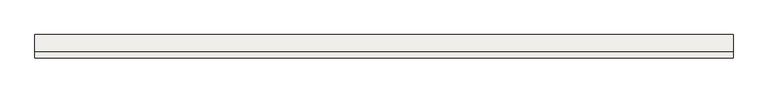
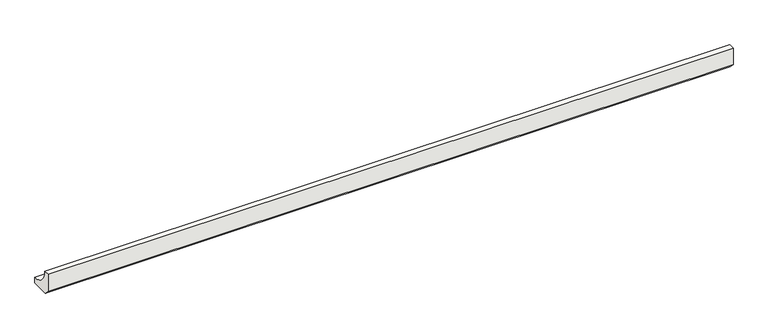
"""IFC4 building model written with IfcOpenShell, lengths in millimetres: slab geometry, ROSA GRES_188 : Pieza 188_Serena_Ocra_Anti-Slip."""

import ifcopenshell
import ifcopenshell.guid

model = None  # the IFC model being written
_history = None  # IfcOwnerHistory: only IFC2X3 demands one
_inside = {}  # id of a spatial element -> (the spatial element, [elements in it])
_under = {}  # id of a project, library or spatial element -> (it, [spatial elements below it])
_declared = {}  # id of a project -> (the project, [libraries it declares])
_typed = {}  # id of a type object -> (the type object, [elements of that type])
_made_of = {}  # id of a material, layer set ... -> (it, [elements and type objects made of it])


def new_model(schema):
    """Start an empty IFC model of exactly this schema.

    Asked for "IFC4X3", IfcOpenShell would pick the latest addendum, in which some entities
    have other attributes; the version numbers below select the first issue.
    IFC2X3 requires an IfcOwnerHistory on every rooted entity: one is made here for all.
    """
    global model, _history
    if schema == "IFC4X3":
        model = ifcopenshell.file(schema_version=(4, 3, 0, 0))
    else:
        model = ifcopenshell.file(schema=schema)
    _inside.clear()
    _under.clear()
    _declared.clear()
    _typed.clear()
    _made_of.clear()
    _history = None
    if model.schema == "IFC2X3":
        org = make("IfcOrganization", Name="unknown")
        user = make(
            "IfcPersonAndOrganization",
            ThePerson=make("IfcPerson", FamilyName="unknown"),
            TheOrganization=org,
        )
        app = make(
            "IfcApplication",
            ApplicationDeveloper=org,
            Version="unknown",
            ApplicationFullName="unknown",
            ApplicationIdentifier="unknown",
        )
        _history = make(
            "IfcOwnerHistory",
            OwningUser=user,
            OwningApplication=app,
            ChangeAction="ADDED",
            CreationDate=0,
        )
    return model


def make(cls, **values):
    """One entity of the class cls with the attributes given. An attribute that is None is left unset."""
    return model.create_entity(
        cls, **{name: value for name, value in values.items() if value is not None}
    )


def rooted(cls, **values):
    """An entity with a GlobalId (a new one), such as an element, a storey or a relation."""
    return make(cls, GlobalId=ifcopenshell.guid.new(), OwnerHistory=_history, **values)


def si_unit(unit_type, name, prefix=None):
    """IfcSIUnit, for example si_unit("LENGTHUNIT", "METRE", prefix="MILLI")."""
    return make("IfcSIUnit", UnitType=unit_type, Prefix=prefix, Name=name)


def assignment(units):
    """IfcUnitAssignment: the units of a project."""
    return None if units is None else make("IfcUnitAssignment", Units=units)


def point(xyz):
    """IfcCartesianPoint."""
    return None if xyz is None else make("IfcCartesianPoint", Coordinates=xyz)


def direction(xyz):
    """IfcDirection."""
    return None if xyz is None else make("IfcDirection", DirectionRatios=xyz)


def frame(location, z_axis=None, x_axis=None):
    """IfcAxis2Placement3D, a coordinate frame: its origin and axes. An axis left out is left unset."""
    return make(
        "IfcAxis2Placement3D",
        Location=point(location),
        Axis=direction(z_axis),
        RefDirection=direction(x_axis),
    )


def frame_2d(location, x_axis=None):
    """IfcAxis2Placement2D, a coordinate frame in the plane: its origin and x axis."""
    return make(
        "IfcAxis2Placement2D", Location=point(location), RefDirection=direction(x_axis)
    )


def origin():
    """The frame at (0, 0, 0) with its axes left unset."""
    return frame((0.0, 0.0, 0.0))


def place(relative_to, where):
    """IfcLocalPlacement: puts the frame where relative to a parent placement (None: the world)."""
    return make(
        "IfcLocalPlacement", PlacementRelTo=relative_to, RelativePlacement=where
    )


def context(
    kind, dimensions, precision=None, world=None, true_north=None, identifier=None
):
    """IfcGeometricRepresentationContext, for example the 3D "Model" context."""
    return make(
        "IfcGeometricRepresentationContext",
        ContextIdentifier=identifier,
        ContextType=kind,
        CoordinateSpaceDimension=dimensions,
        Precision=precision,
        WorldCoordinateSystem=world,
        TrueNorth=true_north,
    )


def project(units=None, contexts=None):
    """IfcProject with its units and contexts."""
    return rooted(
        "IfcProject",
        Name="project",
        RepresentationContexts=contexts,
        UnitsInContext=assignment(units),
    )


def spatial(cls, under=None, at=None, **own):
    """A site, building, storey or space (cls), placed at a placement, below another one or the project."""
    s = rooted(cls, ObjectPlacement=at, **own)
    if under is not None:
        _under.setdefault(under.id(), (under, []))[1].append(s)
    return s


def polyline(points):
    """IfcPolyline through the points."""
    return make("IfcPolyline", Points=[point(p) for p in points])


def circle_curve(where, radius):
    """IfcCircle in the frame where."""
    return make("IfcCircle", Position=where, Radius=radius)


def trimmed(basis, trim1, trim2, sense, master):
    """IfcTrimmedCurve: the piece of a basis curve between two trims."""
    return make(
        "IfcTrimmedCurve",
        BasisCurve=basis,
        Trim1=trim1,
        Trim2=trim2,
        SenseAgreement=sense,
        MasterRepresentation=master,
    )


def segment(curve, same_sense, transition):
    """IfcCompositeCurveSegment."""
    return make(
        "IfcCompositeCurveSegment",
        Transition=transition,
        SameSense=same_sense,
        ParentCurve=curve,
    )


def composite_curve(segments, self_intersect=None):
    """IfcCompositeCurve: segments joined end to end."""
    return make("IfcCompositeCurve", Segments=segments, SelfIntersect=self_intersect)


def outline(outer, holes=None, kind="AREA"):
    """IfcArbitraryClosedProfileDef: a profile drawn as a closed curve; with holes, ...WithVoids."""
    if holes is None:
        return make("IfcArbitraryClosedProfileDef", ProfileType=kind, OuterCurve=outer)
    return make(
        "IfcArbitraryProfileDefWithVoids",
        ProfileType=kind,
        OuterCurve=outer,
        InnerCurves=holes,
    )


def extrude(swept, where, along, depth):
    """IfcExtrudedAreaSolid: the profile swept, set in the frame where, extruded along a direction by depth."""
    return make(
        "IfcExtrudedAreaSolid",
        SweptArea=swept,
        Position=where,
        ExtrudedDirection=direction(along),
        Depth=depth,
    )


def shape(context_of_items, identifier, shape_type, items):
    """IfcShapeRepresentation: the items that make up one representation, for example the "Body"."""
    return make(
        "IfcShapeRepresentation",
        ContextOfItems=context_of_items,
        RepresentationIdentifier=identifier,
        RepresentationType=shape_type,
        Items=items,
    )


def source(mapping_origin, context_of_items, identifier, shape_type, items):
    """IfcRepresentationMap: a shape defined once, which mapped items show again and again."""
    return make(
        "IfcRepresentationMap",
        MappingOrigin=mapping_origin,
        MappedRepresentation=shape(context_of_items, identifier, shape_type, items),
    )


def transform(
    local_origin,
    x_axis=None,
    y_axis=None,
    z_axis=None,
    scale=None,
    scale2=None,
    scale3=None,
    uniform=True,
):
    """IfcCartesianTransformationOperator3D, or its non-uniform kind. x_axis, y_axis, z_axis: its Axis1, 2, 3."""
    if uniform:
        return make(
            "IfcCartesianTransformationOperator3D",
            Axis1=direction(x_axis),
            Axis2=direction(y_axis),
            LocalOrigin=point(local_origin),
            Scale=scale,
            Axis3=direction(z_axis),
        )
    return make(
        "IfcCartesianTransformationOperator3DnonUniform",
        Axis1=direction(x_axis),
        Axis2=direction(y_axis),
        LocalOrigin=point(local_origin),
        Scale=scale,
        Axis3=direction(z_axis),
        Scale2=scale2,
        Scale3=scale3,
    )


def mapped(mapping_source, mapping_target):
    """IfcMappedItem: shows the shape of a source again, moved by a transform."""
    return make(
        "IfcMappedItem", MappingSource=mapping_source, MappingTarget=mapping_target
    )


def made_of(thing, what):
    """Note that an element or type object is made of a material, layer set ...; save() writes the relation."""
    if what is not None:
        _made_of.setdefault(what.id(), (what, []))[1].append(thing)
    return thing


def element(
    cls,
    number,
    at=None,
    inside=None,
    cuts=None,
    type_object=None,
    material=None,
    context=None,
    identifier="Body",
    shape_type=None,
    held_by="IfcProductDefinitionShape",
    body=None,
    shapes=None,
    **own,
):
    """One element of the class cls, such as IfcWall. Its Tag is "e" and its number.

    at: its placement. inside: the storey or other place that contains it. cuts: it is an
    opening in that element (IfcRelVoidsElement). A single representation is given by context,
    identifier, shape_type and body (its items); several are given by shapes. held_by: the class
    of the entity that holds the representations. save() writes the other relations.
    """
    e = rooted(cls, Tag="e%d" % number, ObjectPlacement=at, **own)
    if body is not None:
        shapes = [shape(context, identifier, shape_type, body)]
    if shapes is not None:
        e.Representation = make(held_by, Representations=shapes)
    if inside is not None:
        _inside.setdefault(inside.id(), (inside, []))[1].append(e)
    if cuts is not None:
        rooted(
            "IfcRelVoidsElement", RelatingBuildingElement=cuts, RelatedOpeningElement=e
        )
    if type_object is not None:
        _typed.setdefault(type_object.id(), (type_object, []))[1].append(e)
    return made_of(e, material)


def aggregate(whole, parts):
    """IfcRelAggregates: a whole, such as a stair, and the parts it consists of."""
    return rooted("IfcRelAggregates", RelatingObject=whole, RelatedObjects=parts)


def save(model, path):
    """Write the relations noted so far, then the file.

    IfcRelAggregates (storeys below a building ...), IfcRelContainedInSpatialStructure (elements
    in a storey), IfcRelDefinesByType, IfcRelAssociatesMaterial and IfcRelDeclares: one each for
    every whole, place, type object, material and project.
    """
    for whole, parts in _under.values():
        aggregate(whole, parts)
    for where, things in _inside.values():
        rooted(
            "IfcRelContainedInSpatialStructure",
            RelatedElements=things,
            RelatingStructure=where,
        )
    for kind, things in _typed.values():
        rooted("IfcRelDefinesByType", RelatedObjects=things, RelatingType=kind)
    for what, things in _made_of.values():
        rooted("IfcRelAssociatesMaterial", RelatedObjects=things, RelatingMaterial=what)
    for by, libraries in _declared.values():
        rooted("IfcRelDeclares", RelatingContext=by, RelatedDefinitions=libraries)
    model.write(path)


def slab_6c6facba(model_context):
    return source(origin(), model_context, "Body", "SweptSolid", [
        extrude(outline(composite_curve([segment(polyline([(0.0, 8.7114978), (0.0, 40.0), (9.9734114, 40.0)]), True, "CONTINUOUS"), segment(trimmed(circle_curve(frame_2d((39.9955547, 39.9955547)), 30.0221435), [point((9.9734114, 40.0))], [point((40.0, 9.9734114))], True, "CARTESIAN"), True, "CONTINUOUS"), segment(polyline([(40.0, 9.9734114), (40.0, 0.0), (8.7114978, 0.0), (0.0, 8.7114978)]), True, "CONTINUOUS")], self_intersect=False)), frame((0.0, 0.0, 0.0), z_axis=(1.0, 0.0, 0.0), x_axis=(0.0, 1.0, 0.0)), (0.0, 0.0, 1.0), 1200.0),
    ])


if __name__ == "__main__":
    model = new_model("IFC4")
    model_context = context("Model", 3, world=origin())
    ifc_project = project(units=[si_unit("LENGTHUNIT", "METRE", prefix="MILLI")], contexts=[model_context])
    site = spatial("IfcSite", under=ifc_project)
    building = spatial("IfcBuilding", under=site)
    placement = place(None, origin())
    slab_shape = slab_6c6facba(model_context)
    element("IfcSlab", 1, ObjectType="ROSA GRES_188 : Pieza 188_Serena_Ocra_Anti-Slip", at=placement, inside=building, context=model_context, shape_type="MappedRepresentation", body=[
        mapped(slab_shape, transform((0.0, 0.0, 0.0), x_axis=(1.0, 0.0, 0.0), y_axis=(0.0, 1.0, 0.0), z_axis=(0.0, 0.0, 1.0))),
    ])
    save(model, "model.ifc")
